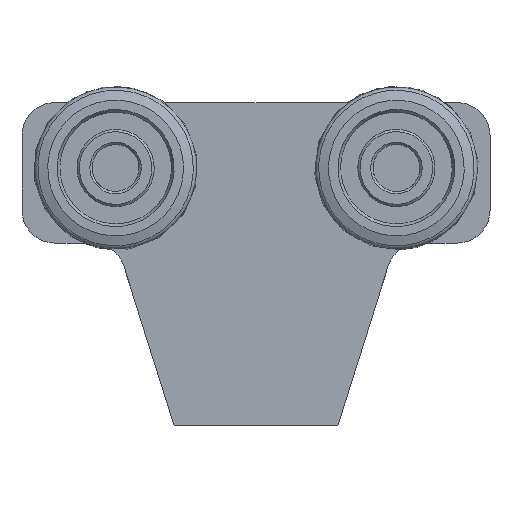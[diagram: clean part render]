
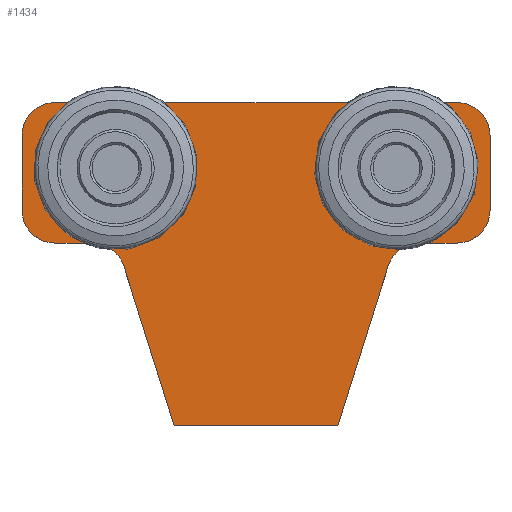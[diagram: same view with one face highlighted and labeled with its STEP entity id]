
A CAD part, top view. The second image highlights one B-rep face of the part: STEP entity #1434.
In plain terms, the highlighted planar face has unit normal (0, 0, 1).
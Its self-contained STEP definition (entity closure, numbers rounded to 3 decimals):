
#109=FACE_BOUND('',#328,.T.);
#110=FACE_BOUND('',#329,.T.);
#135=CIRCLE('',#1506,7.6);
#137=CIRCLE('',#1510,5.15);
#139=CIRCLE('',#1513,5.15);
#141=CIRCLE('',#1517,7.6);
#143=CIRCLE('',#1521,7.);
#145=CIRCLE('',#1525,7.);
#147=CIRCLE('',#1529,7.);
#149=CIRCLE('',#1533,7.);
#151=CIRCLE('',#1537,7.);
#153=CIRCLE('',#1541,7.);
#240=FACE_OUTER_BOUND('',#327,.T.);
#327=EDGE_LOOP('',(#1061,#1062,#1063,#1064,#1065,#1066,#1067,#1068,#1069,
#1070,#1071,#1072,#1073,#1074));
#328=EDGE_LOOP('',(#1075,#1076,#1077,#1078));
#329=EDGE_LOOP('',(#1079,#1080,#1081,#1082));
#418=LINE('',#2099,#530);
#423=LINE('',#2113,#535);
#428=LINE('',#2131,#540);
#432=LINE('',#2142,#544);
#436=LINE('',#2155,#548);
#440=LINE('',#2167,#552);
#444=LINE('',#2179,#556);
#448=LINE('',#2191,#560);
#452=LINE('',#2203,#564);
#456=LINE('',#2215,#568);
#459=LINE('',#2221,#571);
#462=LINE('',#2226,#574);
#530=VECTOR('',#1667,2.718);
#535=VECTOR('',#1680,2.718);
#540=VECTOR('',#1699,2.718);
#544=VECTOR('',#1711,2.718);
#548=VECTOR('',#1723,8.071);
#552=VECTOR('',#1735,16.);
#556=VECTOR('',#1747,86.);
#560=VECTOR('',#1759,16.);
#564=VECTOR('',#1771,8.071);
#568=VECTOR('',#1783,35.76);
#571=VECTOR('',#1788,35.);
#574=VECTOR('',#1793,35.76);
#642=VERTEX_POINT('',#2097);
#643=VERTEX_POINT('',#2098);
#646=VERTEX_POINT('',#2106);
#648=VERTEX_POINT('',#2112);
#650=VERTEX_POINT('',#2121);
#651=VERTEX_POINT('',#2122);
#654=VERTEX_POINT('',#2130);
#656=VERTEX_POINT('',#2136);
#658=VERTEX_POINT('',#2145);
#659=VERTEX_POINT('',#2146);
#662=VERTEX_POINT('',#2154);
#664=VERTEX_POINT('',#2160);
#666=VERTEX_POINT('',#2166);
#668=VERTEX_POINT('',#2172);
#670=VERTEX_POINT('',#2178);
#672=VERTEX_POINT('',#2184);
#674=VERTEX_POINT('',#2190);
#676=VERTEX_POINT('',#2196);
#678=VERTEX_POINT('',#2202);
#680=VERTEX_POINT('',#2208);
#682=VERTEX_POINT('',#2214);
#684=VERTEX_POINT('',#2220);
#778=EDGE_CURVE('',#642,#643,#418,.T.);
#782=EDGE_CURVE('',#643,#646,#135,.T.);
#785=EDGE_CURVE('',#646,#648,#423,.T.);
#788=EDGE_CURVE('',#648,#642,#137,.T.);
#790=EDGE_CURVE('',#650,#651,#139,.T.);
#794=EDGE_CURVE('',#651,#654,#428,.T.);
#797=EDGE_CURVE('',#654,#656,#141,.T.);
#800=EDGE_CURVE('',#656,#650,#432,.T.);
#802=EDGE_CURVE('',#658,#659,#143,.T.);
#806=EDGE_CURVE('',#659,#662,#436,.T.);
#809=EDGE_CURVE('',#662,#664,#145,.T.);
#812=EDGE_CURVE('',#664,#666,#440,.T.);
#815=EDGE_CURVE('',#666,#668,#147,.T.);
#818=EDGE_CURVE('',#668,#670,#444,.T.);
#821=EDGE_CURVE('',#670,#672,#149,.T.);
#824=EDGE_CURVE('',#672,#674,#448,.T.);
#827=EDGE_CURVE('',#674,#676,#151,.T.);
#830=EDGE_CURVE('',#676,#678,#452,.T.);
#833=EDGE_CURVE('',#678,#680,#153,.T.);
#836=EDGE_CURVE('',#680,#682,#456,.T.);
#839=EDGE_CURVE('',#682,#684,#459,.T.);
#842=EDGE_CURVE('',#684,#658,#462,.T.);
#1061=ORIENTED_EDGE('',*,*,#802,.F.);
#1062=ORIENTED_EDGE('',*,*,#842,.F.);
#1063=ORIENTED_EDGE('',*,*,#839,.F.);
#1064=ORIENTED_EDGE('',*,*,#836,.F.);
#1065=ORIENTED_EDGE('',*,*,#833,.F.);
#1066=ORIENTED_EDGE('',*,*,#830,.F.);
#1067=ORIENTED_EDGE('',*,*,#827,.F.);
#1068=ORIENTED_EDGE('',*,*,#824,.F.);
#1069=ORIENTED_EDGE('',*,*,#821,.F.);
#1070=ORIENTED_EDGE('',*,*,#818,.F.);
#1071=ORIENTED_EDGE('',*,*,#815,.F.);
#1072=ORIENTED_EDGE('',*,*,#812,.F.);
#1073=ORIENTED_EDGE('',*,*,#809,.F.);
#1074=ORIENTED_EDGE('',*,*,#806,.F.);
#1075=ORIENTED_EDGE('',*,*,#778,.T.);
#1076=ORIENTED_EDGE('',*,*,#782,.T.);
#1077=ORIENTED_EDGE('',*,*,#785,.T.);
#1078=ORIENTED_EDGE('',*,*,#788,.T.);
#1079=ORIENTED_EDGE('',*,*,#790,.T.);
#1080=ORIENTED_EDGE('',*,*,#794,.T.);
#1081=ORIENTED_EDGE('',*,*,#797,.T.);
#1082=ORIENTED_EDGE('',*,*,#800,.T.);
#1375=PLANE('',#1546);
#1434=ADVANCED_FACE('',(#240,#109,#110),#1375,.T.);
#1506=AXIS2_PLACEMENT_3D('',#2107,#1673,#1674);
#1510=AXIS2_PLACEMENT_3D('',#2118,#1685,#1686);
#1513=AXIS2_PLACEMENT_3D('',#2123,#1691,#1692);
#1517=AXIS2_PLACEMENT_3D('',#2137,#1704,#1705);
#1521=AXIS2_PLACEMENT_3D('',#2147,#1715,#1716);
#1525=AXIS2_PLACEMENT_3D('',#2161,#1728,#1729);
#1529=AXIS2_PLACEMENT_3D('',#2173,#1740,#1741);
#1533=AXIS2_PLACEMENT_3D('',#2185,#1752,#1753);
#1537=AXIS2_PLACEMENT_3D('',#2197,#1764,#1765);
#1541=AXIS2_PLACEMENT_3D('',#2209,#1776,#1777);
#1546=AXIS2_PLACEMENT_3D('',#2228,#1795,#1796);
#1667=DIRECTION('',(-0.866,0.5,0.));
#1673=DIRECTION('center_axis',(0.,0.,-1.));
#1674=DIRECTION('ref_axis',(-0.866,-0.5,0.));
#1680=DIRECTION('',(-0.866,-0.5,0.));
#1685=DIRECTION('center_axis',(0.,0.,-1.));
#1686=DIRECTION('ref_axis',(0.821,-0.571,0.));
#1691=DIRECTION('center_axis',(0.,0.,-1.));
#1692=DIRECTION('ref_axis',(-0.821,0.571,0.));
#1699=DIRECTION('',(-0.866,0.5,0.));
#1704=DIRECTION('center_axis',(0.,0.,-1.));
#1705=DIRECTION('ref_axis',(0.866,0.5,0.));
#1711=DIRECTION('',(-0.866,-0.5,0.));
#1715=DIRECTION('center_axis',(0.,0.,1.));
#1716=DIRECTION('ref_axis',(-0.954,-0.301,0.));
#1723=DIRECTION('',(1.,0.,0.));
#1728=DIRECTION('center_axis',(0.,0.,-1.));
#1729=DIRECTION('ref_axis',(-1.,0.,0.));
#1735=DIRECTION('',(0.,-1.,0.));
#1740=DIRECTION('center_axis',(0.,0.,-1.));
#1741=DIRECTION('ref_axis',(0.,1.,0.));
#1747=DIRECTION('',(-1.,0.,0.));
#1752=DIRECTION('center_axis',(0.,0.,-1.));
#1753=DIRECTION('ref_axis',(1.,0.,0.));
#1759=DIRECTION('',(0.,1.,0.));
#1764=DIRECTION('center_axis',(0.,0.,-1.));
#1765=DIRECTION('ref_axis',(0.,-1.,0.));
#1771=DIRECTION('',(1.,0.,0.));
#1776=DIRECTION('center_axis',(0.,0.,1.));
#1777=DIRECTION('ref_axis',(0.,-1.,0.));
#1783=DIRECTION('',(0.301,0.954,0.));
#1788=DIRECTION('',(1.,0.,0.));
#1793=DIRECTION('',(0.301,-0.954,0.));
#1795=DIRECTION('center_axis',(0.,0.,1.));
#1796=DIRECTION('ref_axis',(1.,0.,0.));
#2097=CARTESIAN_POINT('',(-34.228,2.941,6.));
#2098=CARTESIAN_POINT('',(-36.582,4.3,6.));
#2099=CARTESIAN_POINT('',(-23.68,-3.149,6.));
#2106=CARTESIAN_POINT('',(-23.418,4.3,6.));
#2107=CARTESIAN_POINT('Origin',(-30.,0.5,6.));
#2112=CARTESIAN_POINT('',(-25.772,2.941,6.));
#2113=CARTESIAN_POINT('',(-12.643,10.521,6.));
#2118=CARTESIAN_POINT('Origin',(-30.,0.,6.));
#2121=CARTESIAN_POINT('',(34.228,2.941,6.));
#2122=CARTESIAN_POINT('',(25.772,2.941,6.));
#2123=CARTESIAN_POINT('Origin',(30.,0.,6.));
#2130=CARTESIAN_POINT('',(23.418,4.3,6.));
#2131=CARTESIAN_POINT('',(13.82,9.842,6.));
#2136=CARTESIAN_POINT('',(36.582,4.3,6.));
#2137=CARTESIAN_POINT('Origin',(30.,0.5,6.));
#2142=CARTESIAN_POINT('',(24.857,-2.469,6.));
#2145=CARTESIAN_POINT('',(28.253,20.895,6.));
#2146=CARTESIAN_POINT('',(34.929,16.,6.));
#2147=CARTESIAN_POINT('Origin',(34.929,23.,6.));
#2154=CARTESIAN_POINT('',(43.,16.,6.));
#2155=CARTESIAN_POINT('',(34.929,16.,6.));
#2160=CARTESIAN_POINT('',(50.,9.,6.));
#2161=CARTESIAN_POINT('Origin',(43.,9.,6.));
#2166=CARTESIAN_POINT('',(50.,-7.,6.));
#2167=CARTESIAN_POINT('',(50.,9.,6.));
#2172=CARTESIAN_POINT('',(43.,-14.,6.));
#2173=CARTESIAN_POINT('Origin',(43.,-7.,6.));
#2178=CARTESIAN_POINT('',(-43.,-14.,6.));
#2179=CARTESIAN_POINT('',(43.,-14.,6.));
#2184=CARTESIAN_POINT('',(-50.,-7.,6.));
#2185=CARTESIAN_POINT('Origin',(-43.,-7.,6.));
#2190=CARTESIAN_POINT('',(-50.,9.,6.));
#2191=CARTESIAN_POINT('',(-50.,-7.,6.));
#2196=CARTESIAN_POINT('',(-43.,16.,6.));
#2197=CARTESIAN_POINT('Origin',(-43.,9.,6.));
#2202=CARTESIAN_POINT('',(-34.929,16.,6.));
#2203=CARTESIAN_POINT('',(-43.,16.,6.));
#2208=CARTESIAN_POINT('',(-28.253,20.895,6.));
#2209=CARTESIAN_POINT('Origin',(-34.929,23.,6.));
#2214=CARTESIAN_POINT('',(-17.5,55.,6.));
#2215=CARTESIAN_POINT('',(-28.253,20.895,6.));
#2220=CARTESIAN_POINT('',(17.5,55.,6.));
#2221=CARTESIAN_POINT('',(-17.5,55.,6.));
#2226=CARTESIAN_POINT('',(17.5,55.,6.));
#2228=CARTESIAN_POINT('Origin',(0.,13.509,6.));
